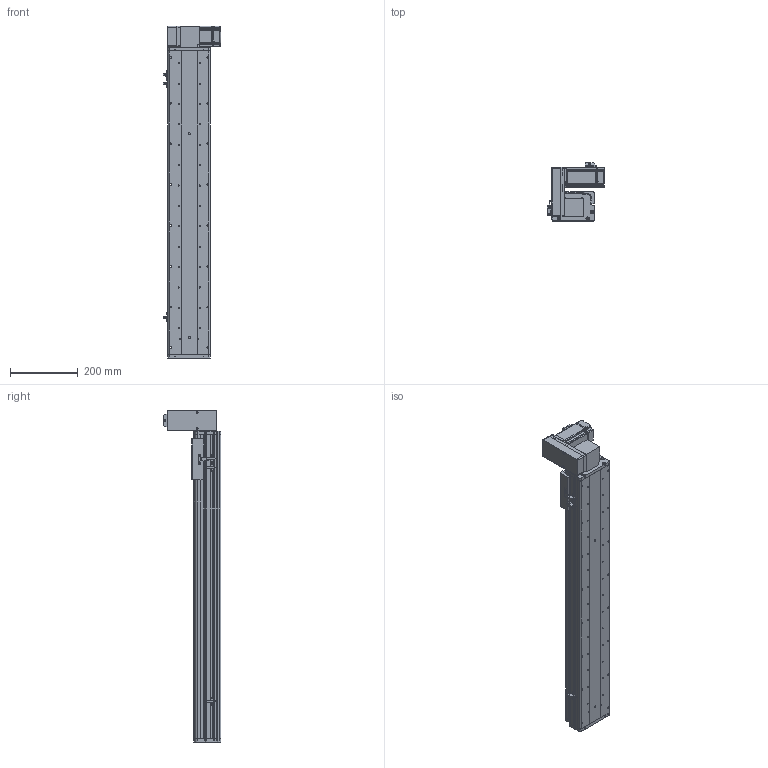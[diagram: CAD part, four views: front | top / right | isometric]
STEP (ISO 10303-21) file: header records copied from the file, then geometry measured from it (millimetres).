
FILE_DESCRIPTION (( 'STEP AP214' ), '1' );
FILE_NAME ('KSD125B-S700-MRU-CM.STEP', '2017-10-21T07:32:17', ( '微软用户' ), ( '微软中国' ), 'SwSTEP 2.0', 'SolidWorks 2014', '' );
FILE_SCHEMA (( 'AUTOMOTIVE_DESIGN' ));
Length unit declared in the file: millimetre
Products named in the file (17): KSD125模组700行程同步带-防尘盖; 125模组700行程同步带-底板; MHMD042G1CA_2_03; KSD125模组同步带-防撞垫2; 覜茼え68遵圉猾敕; U倰嫖萇假蚾璃; U倰嫖萇EEㄜSX672; KSD125模组同步带-防撞垫1; 100宽马达安装板同步带右; 前端板-125宽模组同步带; 125模组同步带-尾端板1; KSD125模组同步带-滑动座1; KSD125B-S700-MRU-CM; 悵誘欶奻狟殏; HTPA30S3M150_A_H6_a萇儂蚚; HTPA30S3M150_A_H6_a佪裝蚚; 100宽马达安装板连板上下折丝杆同步带
Assembly tree (20 placements, depth 2):
  KSD125B-S700-MRU-CM
    KSD125模组同步带-滑动座1
    125模组同步带-尾端板1
    前端板-125宽模组同步带
    100宽马达安装板同步带右
    KSD125模组同步带-防撞垫1
    U倰嫖萇EEㄜSX672  x3
    U倰嫖萇假蚾璃  x3
    覜茼え68遵圉猾敕
    KSD125模组同步带-防撞垫2
    MHMD042G1CA_2_03
    125模组700行程同步带-底板
    KSD125模组700行程同步带-防尘盖
    100宽马达安装板连板上下折丝杆同步带
    HTPA30S3M150_A_H6_a佪裝蚚
    HTPA30S3M150_A_H6_a萇儂蚚
    悵誘欶奻狟殏
Bounding box: 168.7 x 170.5 x 977 mm (x, y, z)
Volume: 3124659.3 mm3; surface area: 1068453.3 mm2
Topology: 19 solids, 22 shells, 2271 faces, 6577 edges, 4346 vertices
Faces by surface type: cylinder 1420, plane 724, cone 105, bspline 22
Entity records: 80651 total; most frequent: CARTESIAN_POINT 15939, DIRECTION 12542, ORIENTED_EDGE 11674, EDGE_CURVE 5915, AXIS2_PLACEMENT_3D 4845, VERTEX_POINT 3938, LINE 2852, VECTOR 2852
